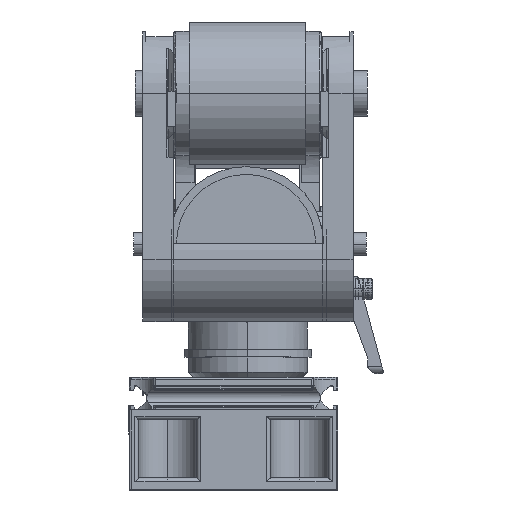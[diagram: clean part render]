
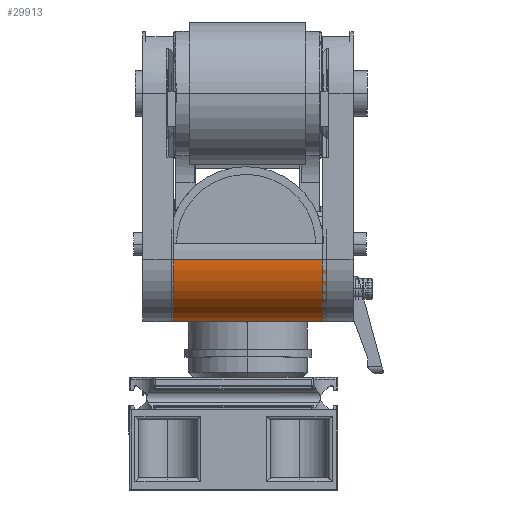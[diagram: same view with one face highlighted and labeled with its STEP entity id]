
A CAD part, top view. The second image highlights one B-rep face of the part: STEP entity #29913.
In plain terms, the highlighted cylindrical face has radius 16 mm (diameter 32 mm), a partial arc.
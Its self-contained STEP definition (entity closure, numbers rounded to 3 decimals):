
#7131=CYLINDRICAL_SURFACE('',#102227,16.);
#9976=LINE('',#147778,#15434);
#9977=LINE('',#147782,#15435);
#9978=LINE('',#147791,#15436);
#15434=VECTOR('',#116034,1.);
#15435=VECTOR('',#116037,1.);
#15436=VECTOR('',#116038,1.);
#29913=ADVANCED_FACE('',(#34943),#7131,.T.);
#34943=FACE_OUTER_BOUND('',#39653,.T.);
#39653=EDGE_LOOP('',(#55358,#55359,#55360,#55361,#55362,#55363));
#45039=CIRCLE('',#102225,16.);
#45040=CIRCLE('',#102226,16.);
#55358=ORIENTED_EDGE('',*,*,#86971,.T.);
#55359=ORIENTED_EDGE('',*,*,#86972,.T.);
#55360=ORIENTED_EDGE('',*,*,#86973,.T.);
#55361=ORIENTED_EDGE('',*,*,#86974,.T.);
#55362=ORIENTED_EDGE('',*,*,#86975,.T.);
#55363=ORIENTED_EDGE('',*,*,#86976,.T.);
#77130=VERTEX_POINT('',#147776);
#77131=VERTEX_POINT('',#147777);
#77132=VERTEX_POINT('',#147779);
#77133=VERTEX_POINT('',#147781);
#77134=VERTEX_POINT('',#147783);
#77135=VERTEX_POINT('',#147790);
#86971=EDGE_CURVE('',#77130,#77131,#45039,.T.);
#86972=EDGE_CURVE('',#77131,#77132,#9976,.T.);
#86973=EDGE_CURVE('',#77132,#77133,#45040,.T.);
#86974=EDGE_CURVE('',#77133,#77134,#9977,.T.);
#86975=EDGE_CURVE('',#77134,#77135,#97071,.T.);
#86976=EDGE_CURVE('',#77135,#77130,#9978,.T.);
#97071=B_SPLINE_CURVE_WITH_KNOTS('',3,(#147784,#147785,#147786,#147787,
#147788,#147789),.UNSPECIFIED.,.F.,.F.,(4,2,4),(0.,0.5,1.),
 .UNSPECIFIED.);
#102225=AXIS2_PLACEMENT_3D('',#147775,#116032,#116033);
#102226=AXIS2_PLACEMENT_3D('',#147780,#116035,#116036);
#102227=AXIS2_PLACEMENT_3D('',#147792,#116039,#116040);
#116032=DIRECTION('',(-1.,0.,0.));
#116033=DIRECTION('',(0.,0.,1.));
#116034=DIRECTION('',(-1.,0.,0.));
#116035=DIRECTION('',(1.,0.,0.));
#116036=DIRECTION('',(0.,0.,1.));
#116037=DIRECTION('',(1.,0.,0.));
#116038=DIRECTION('',(1.,0.,0.));
#116039=DIRECTION('',(-1.,0.,0.));
#116040=DIRECTION('',(0.,0.,-1.));
#147775=CARTESIAN_POINT('',(-134.6,-33.,220.1));
#147776=CARTESIAN_POINT('',(-134.6,-33.,204.1));
#147777=CARTESIAN_POINT('',(-134.6,-33.,236.1));
#147778=CARTESIAN_POINT('',(-134.6,-33.,236.1));
#147779=CARTESIAN_POINT('',(-174.6,-33.,236.1));
#147780=CARTESIAN_POINT('',(-174.6,-33.,220.1));
#147781=CARTESIAN_POINT('',(-174.6,-33.,204.1));
#147782=CARTESIAN_POINT('',(-134.6,-33.,204.1));
#147783=CARTESIAN_POINT('',(-159.776,-33.,204.1));
#147784=CARTESIAN_POINT('',(-159.776,-33.,204.1));
#147785=CARTESIAN_POINT('',(-158.633,-34.282,204.1));
#147786=CARTESIAN_POINT('',(-156.952,-35.025,204.229));
#147787=CARTESIAN_POINT('',(-153.568,-35.024,204.229));
#147788=CARTESIAN_POINT('',(-151.887,-34.282,204.1));
#147789=CARTESIAN_POINT('',(-150.744,-33.,204.1));
#147790=CARTESIAN_POINT('',(-150.744,-33.,204.1));
#147791=CARTESIAN_POINT('',(-134.6,-33.,204.1));
#147792=CARTESIAN_POINT('',(-134.6,-33.,220.1));
